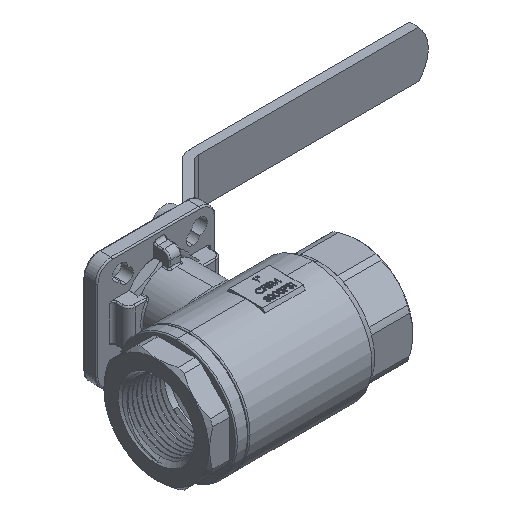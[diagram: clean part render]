
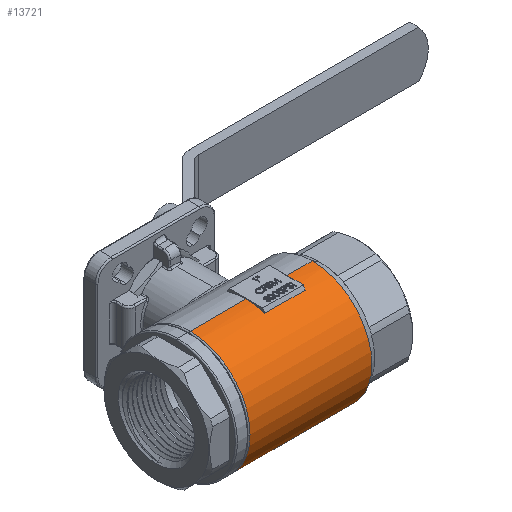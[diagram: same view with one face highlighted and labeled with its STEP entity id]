
A CAD part, isometric view. The second image highlights one B-rep face of the part: STEP entity #13721.
In plain terms, the highlighted cylindrical face has radius 26.7 mm (diameter 53.4 mm), a partial arc.
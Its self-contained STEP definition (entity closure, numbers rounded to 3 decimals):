
#184 = EDGE_CURVE ( 'NONE', #18157, #14676, #42178, .T. ) ;
#391 = CARTESIAN_POINT ( 'NONE',  ( -33.9, 0., 0. ) ) ;
#447 = CYLINDRICAL_SURFACE ( 'NONE', #27521, 26.7 ) ;
#539 = VERTEX_POINT ( 'NONE', #22358 ) ;
#543 = CARTESIAN_POINT ( 'NONE',  ( -33.9, 0., 26.7 ) ) ;
#916 = DIRECTION ( 'NONE',  ( -1., 0., 0. ) ) ;
#922 = ORIENTED_EDGE ( 'NONE', *, *, #31861, .T. ) ;
#2605 = EDGE_LOOP ( 'NONE', ( #5228, #23787, #24358, #33306, #33167, #38576, #5151, #922 ) ) ;
#3677 = VERTEX_POINT ( 'NONE', #9183 ) ;
#3722 = DIRECTION ( 'NONE',  ( 0., 0., -1. ) ) ;
#4728 = CIRCLE ( 'NONE', #34307, 26.7 ) ;
#5151 = ORIENTED_EDGE ( 'NONE', *, *, #12971, .T. ) ;
#5228 = ORIENTED_EDGE ( 'NONE', *, *, #23655, .F. ) ;
#5276 = DIRECTION ( 'NONE',  ( 1., 0., 0. ) ) ;
#6065 = CARTESIAN_POINT ( 'NONE',  ( 9., -8.398, 25.345 ) ) ;
#6244 = EDGE_CURVE ( 'NONE', #31214, #24539, #4728, .T. ) ;
#7589 = VECTOR ( 'NONE', #916, 1000. ) ;
#8226 = VECTOR ( 'NONE', #9205, 1000. ) ;
#9183 = CARTESIAN_POINT ( 'NONE',  ( -33.9, 0., -26.7 ) ) ;
#9205 = DIRECTION ( 'NONE',  ( -1., 0., 0. ) ) ;
#9270 = CARTESIAN_POINT ( 'NONE',  ( 23.5, 0., -26.7 ) ) ;
#10399 = AXIS2_PLACEMENT_3D ( 'NONE', #11528, #27725, #30759 ) ;
#10864 = EDGE_CURVE ( 'NONE', #18157, #24539, #32079, .T. ) ;
#11528 = CARTESIAN_POINT ( 'NONE',  ( 9., 0., 0. ) ) ;
#12449 = CARTESIAN_POINT ( 'NONE',  ( 23.5, 0., 0. ) ) ;
#12971 = EDGE_CURVE ( 'NONE', #31214, #15373, #24767, .T. ) ;
#13075 = CIRCLE ( 'NONE', #16749, 26.7 ) ;
#13721 = ADVANCED_FACE ( 'NONE', ( #19084 ), #447, .T. ) ;
#14570 = VECTOR ( 'NONE', #19311, 1000. ) ;
#14676 = VERTEX_POINT ( 'NONE', #30090 ) ;
#15152 = AXIS2_PLACEMENT_3D ( 'NONE', #391, #23519, #3722 ) ;
#15373 = VERTEX_POINT ( 'NONE', #543 ) ;
#16036 = EDGE_CURVE ( 'NONE', #539, #14676, #24124, .T. ) ;
#16749 = AXIS2_PLACEMENT_3D ( 'NONE', #37436, #17703, #40744 ) ;
#17703 = DIRECTION ( 'NONE',  ( -1., 0., 0. ) ) ;
#18157 = VERTEX_POINT ( 'NONE', #6065 ) ;
#18353 = CIRCLE ( 'NONE', #15152, 26.7 ) ;
#19084 = FACE_OUTER_BOUND ( 'NONE', #2605, .T. ) ;
#19311 = DIRECTION ( 'NONE',  ( -1., 0., 0. ) ) ;
#22358 = CARTESIAN_POINT ( 'NONE',  ( 20.55, 0., 26.7 ) ) ;
#23519 = DIRECTION ( 'NONE',  ( 1., 0., 0. ) ) ;
#23655 = EDGE_CURVE ( 'NONE', #30119, #3677, #41816, .T. ) ;
#23787 = ORIENTED_EDGE ( 'NONE', *, *, #41462, .T. ) ;
#24124 = LINE ( 'NONE', #37147, #7589 ) ;
#24358 = ORIENTED_EDGE ( 'NONE', *, *, #16036, .T. ) ;
#24539 = VERTEX_POINT ( 'NONE', #41646 ) ;
#24767 = LINE ( 'NONE', #25685, #8226 ) ;
#25094 = CARTESIAN_POINT ( 'NONE',  ( -9., 0., 0. ) ) ;
#25335 = VECTOR ( 'NONE', #32365, 1000. ) ;
#25685 = CARTESIAN_POINT ( 'NONE',  ( 23.5, 0., 26.7 ) ) ;
#27521 = AXIS2_PLACEMENT_3D ( 'NONE', #12449, #39414, #32815 ) ;
#27725 = DIRECTION ( 'NONE',  ( -1., 0., 0. ) ) ;
#27847 = CARTESIAN_POINT ( 'NONE',  ( 20.55, 0., -26.7 ) ) ;
#28412 = DIRECTION ( 'NONE',  ( 0., 0., 1. ) ) ;
#30090 = CARTESIAN_POINT ( 'NONE',  ( 9., 0., 26.7 ) ) ;
#30119 = VERTEX_POINT ( 'NONE', #27847 ) ;
#30759 = DIRECTION ( 'NONE',  ( 0., 0., -1. ) ) ;
#31214 = VERTEX_POINT ( 'NONE', #37183 ) ;
#31861 = EDGE_CURVE ( 'NONE', #15373, #3677, #18353, .T. ) ;
#32079 = LINE ( 'NONE', #42331, #14570 ) ;
#32365 = DIRECTION ( 'NONE',  ( -1., 0., 0. ) ) ;
#32815 = DIRECTION ( 'NONE',  ( 0., 0., 1. ) ) ;
#33167 = ORIENTED_EDGE ( 'NONE', *, *, #10864, .T. ) ;
#33306 = ORIENTED_EDGE ( 'NONE', *, *, #184, .F. ) ;
#34307 = AXIS2_PLACEMENT_3D ( 'NONE', #25094, #5276, #28412 ) ;
#37147 = CARTESIAN_POINT ( 'NONE',  ( 23.5, 0., 26.7 ) ) ;
#37183 = CARTESIAN_POINT ( 'NONE',  ( -9., 0., 26.7 ) ) ;
#37436 = CARTESIAN_POINT ( 'NONE',  ( 20.55, 0., 0. ) ) ;
#38576 = ORIENTED_EDGE ( 'NONE', *, *, #6244, .F. ) ;
#39414 = DIRECTION ( 'NONE',  ( -1., 0., 0. ) ) ;
#40744 = DIRECTION ( 'NONE',  ( 0., 0., -1. ) ) ;
#41462 = EDGE_CURVE ( 'NONE', #30119, #539, #13075, .T. ) ;
#41646 = CARTESIAN_POINT ( 'NONE',  ( -9., -8.398, 25.345 ) ) ;
#41816 = LINE ( 'NONE', #9270, #25335 ) ;
#42178 = CIRCLE ( 'NONE', #10399, 26.7 ) ;
#42331 = CARTESIAN_POINT ( 'NONE',  ( 23.5, -8.398, 25.345 ) ) ;
